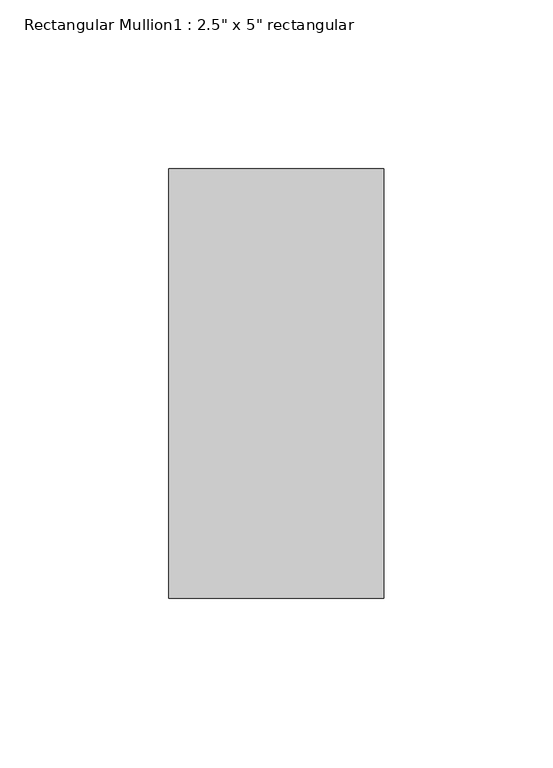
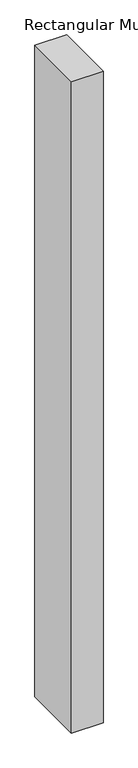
"""IFC4 building model written with IfcOpenShell, lengths in millimetres: member geometry."""

from ifc_helpers import new_model, si_unit, frame, origin, place, context, project, spatial, polyline, outline, extrude, source, transform, mapped, element, save


def member_8caa64b4(model_context):
    return source(origin(), model_context, "Body", "SweptSolid", [
        extrude(outline(polyline([(31.75, 63.5), (31.75, -63.5), (-31.75, -63.5), (-31.75, 63.5), (31.75, 63.5)])), frame((0.0, 0.0, -1383.5673076), z_axis=(0.0, 0.0, 1.0), x_axis=(1.0, 0.0, 0.0)), (0.0, 0.0, 1.0), 1383.5673076),
    ])


if __name__ == "__main__":
    model = new_model("IFC4")
    model_context = context("Model", 3, world=origin())
    ifc_project = project(units=[si_unit("LENGTHUNIT", "METRE", prefix="MILLI")], contexts=[model_context])
    site = spatial("IfcSite", under=ifc_project)
    building = spatial("IfcBuilding", under=site)
    placement = place(None, origin())
    member_shape = member_8caa64b4(model_context)
    element("IfcMember", 1, ObjectType="Rectangular Mullion1 : 2.5\" x 5\" rectangular", at=placement, inside=building, context=model_context, shape_type="MappedRepresentation", body=[
        mapped(member_shape, transform((0.0, 0.0, 0.0), x_axis=(1.0, 0.0, 0.0), y_axis=(0.0, 1.0, 0.0), z_axis=(0.0, 0.0, 1.0))),
    ])
    save(model, "model.ifc")
